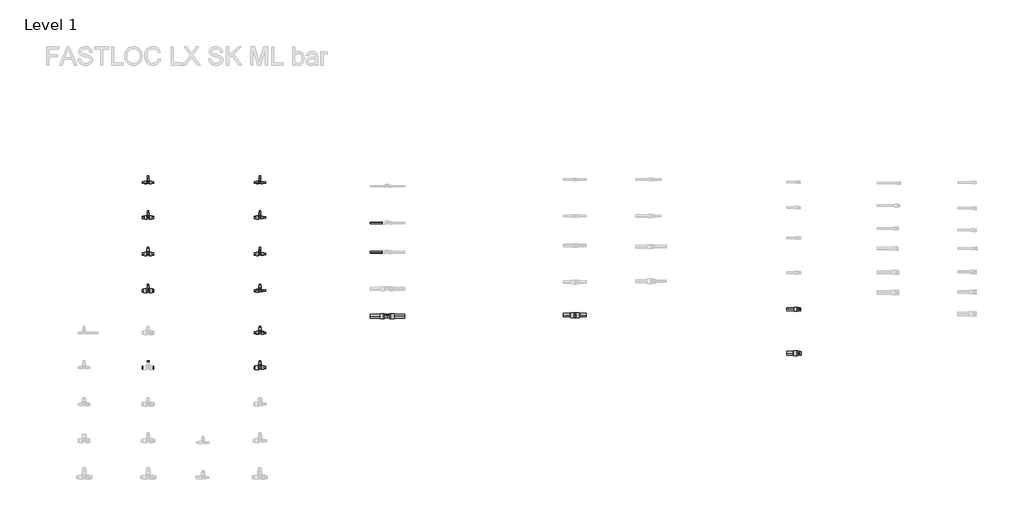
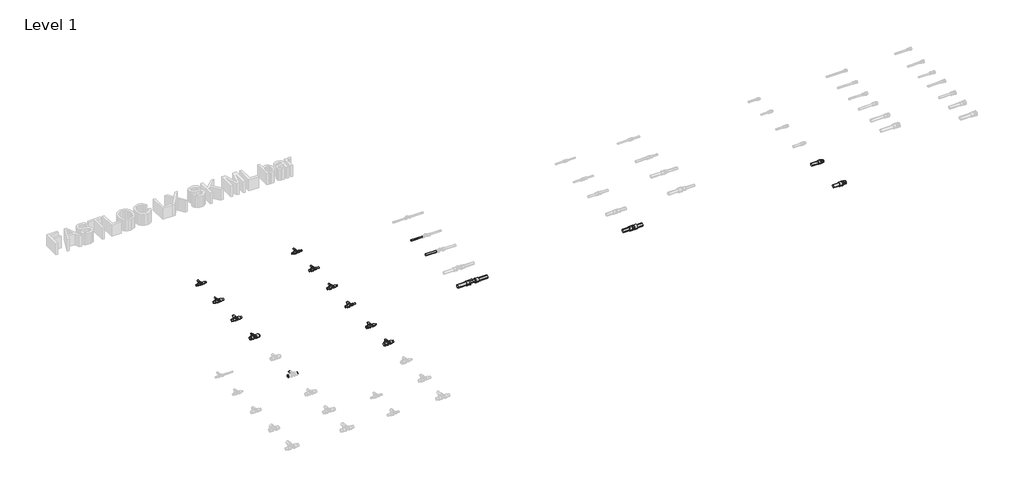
# One storey, part 13 of 78: 41 pipe segments, 14 pipe fittings.
"""IFC4 building model written with IfcOpenShell, lengths in millimetres."""

from ifc_helpers import new_model, si_unit, point, frame, frame_2d, origin, place, context, project, spatial, circle_curve, trimmed, segment, composite_curve, outline, extrude, transform, mapped, element, save
from components import pipe_fitting_5ae7c970, pipe_fitting_e97a97d3, pipe_fitting_d9a56b63, pipe_fitting_a094db19, pipe_fitting_5d5decb5, pipe_fitting_f2600fd0, pipe_fitting_8fb58d5f, pipe_fitting_db17a53a, pipe_fitting_3bea6388, pipe_fitting_e638986c, pipe_fitting_00caae07, pipe_fitting_607ccf76, pipe_fitting_b01d00d0, pipe_fitting_e8fea69e

model = new_model("IFC4")

# Units and contexts
model_context = context("Model", 3, world=origin())
ifc_project = project(units=[si_unit("LENGTHUNIT", "METRE", prefix="MILLI")], contexts=[model_context])

# Site, building, storey
site = spatial("IfcSite", under=ifc_project)
building = spatial("IfcBuilding", under=site)
storey = spatial("IfcBuildingStorey", under=building, Name="Level 1", Elevation=0.0)

# Pipe fittings
placement = place(None, origin())
pipe_fitting_shape = pipe_fitting_5ae7c970(model_context)
element("IfcPipeFitting", 1, ObjectType="FASTLOC_T-piece_LX : FSL T-Piece LX SK", at=placement, inside=storey, context=model_context, shape_type="MappedRepresentation", body=[
    mapped(pipe_fitting_shape, transform((426.7498072, -18740.2405791, 0.0), x_axis=(1.0, 0.0, 0.0), y_axis=(0.0, 1.0, 0.0), z_axis=(0.0, 0.0, 1.0))),
])
pipe_fitting_2_shape = pipe_fitting_e97a97d3(model_context)
element("IfcPipeFitting", 2, ObjectType="FASTLOC_T-piece_LX : FSL T-Piece LX SK", at=placement, inside=storey, context=model_context, shape_type="MappedRepresentation", body=[
    mapped(pipe_fitting_2_shape, transform((426.7498072, -19120.2405791, 0.0), x_axis=(1.0, 0.0, 0.0), y_axis=(0.0, 1.0, 0.0), z_axis=(0.0, 0.0, 1.0))),
])
pipe_fitting_3_shape = pipe_fitting_d9a56b63(model_context)
element("IfcPipeFitting", 3, ObjectType="FASTLOC_T-piece_LX : FSL T-Piece LX SK", at=placement, inside=storey, context=model_context, shape_type="MappedRepresentation", body=[
    mapped(pipe_fitting_3_shape, transform((426.7498072, -19520.2405791, 0.0), x_axis=(1.0, 0.0, 0.0), y_axis=(0.0, 1.0, 0.0), z_axis=(0.0, 0.0, 1.0))),
])
pipe_fitting_4_shape = pipe_fitting_a094db19(model_context)
element("IfcPipeFitting", 4, ObjectType="FASTLOC_T-piece_LX : FSL T-Piece LX SK", at=placement, inside=storey, context=model_context, shape_type="MappedRepresentation", body=[
    mapped(pipe_fitting_4_shape, transform((426.7498072, -19920.2405791, 0.0), x_axis=(1.0, 0.0, 0.0), y_axis=(0.0, 1.0, 0.0), z_axis=(0.0, 0.0, 1.0))),
])
pipe_fitting_5_shape = pipe_fitting_5d5decb5(model_context)
element("IfcPipeFitting", 5, ObjectType="FASTLOC_T-piece_LX : FSL T-Piece LX SK", at=placement, inside=storey, context=model_context, shape_type="MappedRepresentation", body=[
    mapped(pipe_fitting_5_shape, transform((1646.7498072, -20380.2405791, 0.0), x_axis=(1.0, 0.0, 0.0), y_axis=(0.0, 1.0, 0.0), z_axis=(0.0, 0.0, 1.0))),
])
pipe_fitting_6_shape = pipe_fitting_f2600fd0(model_context)
element("IfcPipeFitting", 6, ObjectType="FASTLOC_T-piece_LX : FSL T-Piece LX SK", at=placement, inside=storey, context=model_context, shape_type="MappedRepresentation", body=[
    mapped(pipe_fitting_6_shape, transform((1646.7498072, -20760.2405791, 0.0), x_axis=(1.0, 0.0, 0.0), y_axis=(0.0, 1.0, 0.0), z_axis=(0.0, 0.0, 1.0))),
])
pipe_fitting_7_shape = pipe_fitting_8fb58d5f(model_context)
element("IfcPipeFitting", 7, ObjectType="FASTLOC_T-piece_LX : FSL T-Piece LX SK", at=placement, inside=storey, context=model_context, shape_type="MappedRepresentation", body=[
    mapped(pipe_fitting_7_shape, transform((1646.7498072, -18740.2405791, 0.0), x_axis=(1.0, 0.0, 0.0), y_axis=(0.0, 1.0, 0.0), z_axis=(0.0, 0.0, 1.0))),
])
pipe_fitting_8_shape = pipe_fitting_db17a53a(model_context)
element("IfcPipeFitting", 8, ObjectType="FASTLOC_T-piece_LX : FSL T-Piece LX SK", at=placement, inside=storey, context=model_context, shape_type="MappedRepresentation", body=[
    mapped(pipe_fitting_8_shape, transform((1646.7498072, -19120.2405791, 0.0), x_axis=(1.0, 0.0, 0.0), y_axis=(0.0, 1.0, 0.0), z_axis=(0.0, 0.0, 1.0))),
])
pipe_fitting_9_shape = pipe_fitting_3bea6388(model_context)
element("IfcPipeFitting", 9, ObjectType="FASTLOC_T-piece_LX : FSL T-Piece LX SK", at=placement, inside=storey, context=model_context, shape_type="MappedRepresentation", body=[
    mapped(pipe_fitting_9_shape, transform((1646.7498072, -19520.2405791, 0.0), x_axis=(1.0, 0.0, 0.0), y_axis=(0.0, 1.0, 0.0), z_axis=(0.0, 0.0, 1.0))),
])
pipe_fitting_10_shape = pipe_fitting_e638986c(model_context)
element("IfcPipeFitting", 10, ObjectType="FASTLOC_T-piece_LX : FSL T-Piece LX SK", at=placement, inside=storey, context=model_context, shape_type="MappedRepresentation", body=[
    mapped(pipe_fitting_10_shape, transform((1646.7498072, -19920.2405791, 0.0), x_axis=(1.0, 0.0, 0.0), y_axis=(0.0, 1.0, 0.0), z_axis=(0.0, 0.0, 1.0))),
])
pipe_fitting_11_shape = pipe_fitting_00caae07(model_context)
element("IfcPipeFitting", 11, ObjectType="FASTLOC_T-piece internal thread LX : FSL T thread LX SK", at=placement, inside=storey, context=model_context, shape_type="MappedRepresentation", body=[
    mapped(pipe_fitting_11_shape, transform((3036.609585, -20199.8272875, 0.0), x_axis=(1.0, 0.0, 0.0), y_axis=(0.0, 1.0, 0.0), z_axis=(0.0, 0.0, 1.0))),
])
pipe_fitting_12_shape = pipe_fitting_607ccf76(model_context)
element("IfcPipeFitting", 12, ObjectType="FASTLOC_Coupling equal LX : FSL C LX SK", at=placement, inside=storey, context=model_context, shape_type="MappedRepresentation", body=[
    mapped(pipe_fitting_12_shape, transform((5088.3790161, -20187.4785925, 0.0), x_axis=(1.0, 0.0, 0.0), y_axis=(0.0, 1.0, 0.0), z_axis=(0.0, 0.0, 1.0))),
])
pipe_fitting_13_shape = pipe_fitting_b01d00d0(model_context)
element("IfcPipeFitting", 13, ObjectType="FASTLOC_Adapter_LX, with external thread : FSL A C external SK", at=placement, inside=storey, context=model_context, shape_type="MappedRepresentation", body=[
    mapped(pipe_fitting_13_shape, transform((7526.8953131, -20124.2068389, 0.0), x_axis=(1.0, 0.0, 0.0), y_axis=(0.0, 1.0, 0.0), z_axis=(0.0, 0.0, 1.0))),
])
pipe_fitting_14_shape = pipe_fitting_e8fea69e(model_context)
element("IfcPipeFitting", 14, ObjectType="FASTLOC_Adapter_LX, with external thread : FSL A C external SK", at=placement, inside=storey, context=model_context, shape_type="MappedRepresentation", body=[
    mapped(pipe_fitting_14_shape, transform((7526.8953131, -20604.2068389, 0.0), x_axis=(1.0, 0.0, 0.0), y_axis=(0.0, 1.0, 0.0), z_axis=(0.0, 0.0, 1.0))),
])

# Pipe segments
element("IfcPipeSegment", 15, ObjectType="FASTLOC LX ML SK bar", at=placement, inside=storey, context=model_context, shape_type="SweptSolid", body=[
    extrude(outline(composite_curve([segment(trimmed(circle_curve(frame_2d((-20760.2405791, 0.0)), 16.0), [point((-20776.2405791, 0.0))], [point((-20760.2405791, 16.0))], False, "CARTESIAN"), True, "CONTINUOUS"), segment(trimmed(circle_curve(frame_2d((-20760.2405791, 0.0)), 16.0), [point((-20760.2405791, 16.0))], [point((-20744.2405791, 0.0))], False, "CARTESIAN"), True, "CONTINUOUS"), segment(trimmed(circle_curve(frame_2d((-20760.2405791, 0.0)), 16.0), [point((-20744.2405791, 0.0))], [point((-20760.2405791, -16.0))], False, "CARTESIAN"), True, "CONTINUOUS"), segment(trimmed(circle_curve(frame_2d((-20760.2405791, 0.0)), 16.0), [point((-20760.2405791, -16.0))], [point((-20776.2405791, 0.0))], False, "CARTESIAN"), True, "CONTINUOUS")], self_intersect=False)), frame((448.7498072, 0.0, 0.0), z_axis=(1.0, 0.0, 0.0), x_axis=(0.0, 1.0, 0.0)), (0.0, 0.0, 1.0), 40.0),
])
element("IfcPipeSegment", 16, ObjectType="FASTLOC LX ML SK bar", at=placement, inside=storey, context=model_context, shape_type="SweptSolid", body=[
    extrude(outline(composite_curve([segment(trimmed(circle_curve(frame_2d((-20760.2405791, 0.0)), 16.0), [point((-20744.2405791, 0.0))], [point((-20760.2405791, -16.0))], False, "CARTESIAN"), True, "CONTINUOUS"), segment(trimmed(circle_curve(frame_2d((-20760.2405791, 0.0)), 16.0), [point((-20760.2405791, -16.0))], [point((-20776.2405791, 0.0))], False, "CARTESIAN"), True, "CONTINUOUS"), segment(trimmed(circle_curve(frame_2d((-20760.2405791, 0.0)), 16.0), [point((-20776.2405791, 0.0))], [point((-20760.2405791, 16.0))], False, "CARTESIAN"), True, "CONTINUOUS"), segment(trimmed(circle_curve(frame_2d((-20760.2405791, 0.0)), 16.0), [point((-20760.2405791, 16.0))], [point((-20744.2405791, 0.0))], False, "CARTESIAN"), True, "CONTINUOUS")], self_intersect=False)), frame((364.7498072, 0.0, 0.0), z_axis=(1.0, 0.0, 0.0), x_axis=(0.0, 1.0, 0.0)), (0.0, 0.0, 1.0), 40.0),
])
element("IfcPipeSegment", 17, ObjectType="FASTLOC LX ML SK bar", at=placement, inside=storey, context=model_context, shape_type="SweptSolid", body=[
    extrude(outline(composite_curve([segment(trimmed(circle_curve(frame_2d((0.0, 426.7498072)), 12.5), [point((0.0, 439.2498072))], [point((12.5, 426.7498072))], False, "CARTESIAN"), True, "CONTINUOUS"), segment(trimmed(circle_curve(frame_2d((0.0, 426.7498072)), 12.5), [point((12.5, 426.7498072))], [point((0.0, 414.2498072))], False, "CARTESIAN"), True, "CONTINUOUS"), segment(trimmed(circle_curve(frame_2d((0.0, 426.7498072)), 12.5), [point((0.0, 414.2498072))], [point((-12.5, 426.7498072))], False, "CARTESIAN"), True, "CONTINUOUS"), segment(trimmed(circle_curve(frame_2d((0.0, 426.7498072)), 12.5), [point((-12.5, 426.7498072))], [point((0.0, 439.2498072))], False, "CARTESIAN"), True, "CONTINUOUS")], self_intersect=False)), frame((0.0, -20725.8405791, 0.0), z_axis=(0.0, 1.0, 0.0), x_axis=(0.0, 0.0, 1.0)), (0.0, 0.0, 1.0), 37.9),
])
element("IfcPipeSegment", 18, ObjectType="FASTLOC LX ML SK bar", at=placement, inside=storey, context=model_context, shape_type="SweptSolid", body=[
    extrude(outline(composite_curve([segment(trimmed(circle_curve(frame_2d((-18740.2405791, 0.0)), 8.0), [point((-18748.2405791, 0.0))], [point((-18740.2405791, 8.0))], False, "CARTESIAN"), True, "CONTINUOUS"), segment(trimmed(circle_curve(frame_2d((-18740.2405791, 0.0)), 8.0), [point((-18740.2405791, 8.0))], [point((-18732.2405791, 0.0))], False, "CARTESIAN"), True, "CONTINUOUS"), segment(trimmed(circle_curve(frame_2d((-18740.2405791, 0.0)), 8.0), [point((-18732.2405791, 0.0))], [point((-18740.2405791, -8.0))], False, "CARTESIAN"), True, "CONTINUOUS"), segment(trimmed(circle_curve(frame_2d((-18740.2405791, 0.0)), 8.0), [point((-18740.2405791, -8.0))], [point((-18748.2405791, 0.0))], False, "CARTESIAN"), True, "CONTINUOUS")], self_intersect=False)), frame((442.0498072, 0.0, 0.0), z_axis=(1.0, 0.0, 0.0), x_axis=(0.0, 1.0, 0.0)), (0.0, 0.0, 1.0), 46.7),
])
element("IfcPipeSegment", 19, ObjectType="FASTLOC LX ML SK bar", at=placement, inside=storey, context=model_context, shape_type="SweptSolid", body=[
    extrude(outline(composite_curve([segment(trimmed(circle_curve(frame_2d((-18740.2405791, 0.0)), 8.0), [point((-18732.2405791, 0.0))], [point((-18740.2405791, -8.0))], False, "CARTESIAN"), True, "CONTINUOUS"), segment(trimmed(circle_curve(frame_2d((-18740.2405791, 0.0)), 8.0), [point((-18740.2405791, -8.0))], [point((-18748.2405791, 0.0))], False, "CARTESIAN"), True, "CONTINUOUS"), segment(trimmed(circle_curve(frame_2d((-18740.2405791, 0.0)), 8.0), [point((-18748.2405791, 0.0))], [point((-18740.2405791, 8.0))], False, "CARTESIAN"), True, "CONTINUOUS"), segment(trimmed(circle_curve(frame_2d((-18740.2405791, 0.0)), 8.0), [point((-18740.2405791, 8.0))], [point((-18732.2405791, 0.0))], False, "CARTESIAN"), True, "CONTINUOUS")], self_intersect=False)), frame((364.7498072, 0.0, 0.0), z_axis=(1.0, 0.0, 0.0), x_axis=(0.0, 1.0, 0.0)), (0.0, 0.0, 1.0), 46.7),
])
element("IfcPipeSegment", 20, ObjectType="FASTLOC LX ML SK bar", at=placement, inside=storey, context=model_context, shape_type="SweptSolid", body=[
    extrude(outline(composite_curve([segment(trimmed(circle_curve(frame_2d((0.0, 426.7498072)), 8.0), [point((0.0, 434.7498072))], [point((8.0, 426.7498072))], False, "CARTESIAN"), True, "CONTINUOUS"), segment(trimmed(circle_curve(frame_2d((0.0, 426.7498072)), 8.0), [point((8.0, 426.7498072))], [point((0.0, 418.7498072))], False, "CARTESIAN"), True, "CONTINUOUS"), segment(trimmed(circle_curve(frame_2d((0.0, 426.7498072)), 8.0), [point((0.0, 418.7498072))], [point((-8.0, 426.7498072))], False, "CARTESIAN"), True, "CONTINUOUS"), segment(trimmed(circle_curve(frame_2d((0.0, 426.7498072)), 8.0), [point((-8.0, 426.7498072))], [point((0.0, 434.7498072))], False, "CARTESIAN"), True, "CONTINUOUS")], self_intersect=False)), frame((0.0, -18713.9405791, 0.0), z_axis=(0.0, 1.0, 0.0), x_axis=(0.0, 0.0, 1.0)), (0.0, 0.0, 1.0), 46.0),
])
element("IfcPipeSegment", 21, ObjectType="FASTLOC LX ML SK bar", at=placement, inside=storey, context=model_context, shape_type="SweptSolid", body=[
    extrude(outline(composite_curve([segment(trimmed(circle_curve(frame_2d((-19120.2405791, 0.0)), 12.5), [point((-19132.7405791, 0.0))], [point((-19120.2405791, 12.5))], False, "CARTESIAN"), True, "CONTINUOUS"), segment(trimmed(circle_curve(frame_2d((-19120.2405791, 0.0)), 12.5), [point((-19120.2405791, 12.5))], [point((-19107.7405791, 0.0))], False, "CARTESIAN"), True, "CONTINUOUS"), segment(trimmed(circle_curve(frame_2d((-19120.2405791, 0.0)), 12.5), [point((-19107.7405791, 0.0))], [point((-19120.2405791, -12.5))], False, "CARTESIAN"), True, "CONTINUOUS"), segment(trimmed(circle_curve(frame_2d((-19120.2405791, 0.0)), 12.5), [point((-19120.2405791, -12.5))], [point((-19132.7405791, 0.0))], False, "CARTESIAN"), True, "CONTINUOUS")], self_intersect=False)), frame((442.9498072, 0.0, 0.0), z_axis=(1.0, 0.0, 0.0), x_axis=(0.0, 1.0, 0.0)), (0.0, 0.0, 1.0), 45.8),
])
element("IfcPipeSegment", 22, ObjectType="FASTLOC LX ML SK bar", at=placement, inside=storey, context=model_context, shape_type="SweptSolid", body=[
    extrude(outline(composite_curve([segment(trimmed(circle_curve(frame_2d((-19120.2405791, 0.0)), 12.5), [point((-19107.7405791, 0.0))], [point((-19120.2405791, -12.5))], False, "CARTESIAN"), True, "CONTINUOUS"), segment(trimmed(circle_curve(frame_2d((-19120.2405791, 0.0)), 12.5), [point((-19120.2405791, -12.5))], [point((-19132.7405791, 0.0))], False, "CARTESIAN"), True, "CONTINUOUS"), segment(trimmed(circle_curve(frame_2d((-19120.2405791, 0.0)), 12.5), [point((-19132.7405791, 0.0))], [point((-19120.2405791, 12.5))], False, "CARTESIAN"), True, "CONTINUOUS"), segment(trimmed(circle_curve(frame_2d((-19120.2405791, 0.0)), 12.5), [point((-19120.2405791, 12.5))], [point((-19107.7405791, 0.0))], False, "CARTESIAN"), True, "CONTINUOUS")], self_intersect=False)), frame((364.7498072, 0.0, 0.0), z_axis=(1.0, 0.0, 0.0), x_axis=(0.0, 1.0, 0.0)), (0.0, 0.0, 1.0), 45.8),
])
element("IfcPipeSegment", 23, ObjectType="FASTLOC LX ML SK bar", at=placement, inside=storey, context=model_context, shape_type="SweptSolid", body=[
    extrude(outline(composite_curve([segment(trimmed(circle_curve(frame_2d((0.0, 426.7498072)), 8.0), [point((0.0, 434.7498072))], [point((8.0, 426.7498072))], False, "CARTESIAN"), True, "CONTINUOUS"), segment(trimmed(circle_curve(frame_2d((0.0, 426.7498072)), 8.0), [point((8.0, 426.7498072))], [point((0.0, 418.7498072))], False, "CARTESIAN"), True, "CONTINUOUS"), segment(trimmed(circle_curve(frame_2d((0.0, 426.7498072)), 8.0), [point((0.0, 418.7498072))], [point((-8.0, 426.7498072))], False, "CARTESIAN"), True, "CONTINUOUS"), segment(trimmed(circle_curve(frame_2d((0.0, 426.7498072)), 8.0), [point((-8.0, 426.7498072))], [point((0.0, 434.7498072))], False, "CARTESIAN"), True, "CONTINUOUS")], self_intersect=False)), frame((0.0, -19091.2405791, 0.0), z_axis=(0.0, 1.0, 0.0), x_axis=(0.0, 0.0, 1.0)), (0.0, 0.0, 1.0), 43.3),
])
element("IfcPipeSegment", 24, ObjectType="FASTLOC LX ML SK bar", at=placement, inside=storey, context=model_context, shape_type="SweptSolid", body=[
    extrude(outline(composite_curve([segment(trimmed(circle_curve(frame_2d((-19520.2405791, 0.0)), 12.5), [point((-19532.7405791, 0.0))], [point((-19520.2405791, 12.5))], False, "CARTESIAN"), True, "CONTINUOUS"), segment(trimmed(circle_curve(frame_2d((-19520.2405791, 0.0)), 12.5), [point((-19520.2405791, 12.5))], [point((-19507.7405791, 0.0))], False, "CARTESIAN"), True, "CONTINUOUS"), segment(trimmed(circle_curve(frame_2d((-19520.2405791, 0.0)), 12.5), [point((-19507.7405791, 0.0))], [point((-19520.2405791, -12.5))], False, "CARTESIAN"), True, "CONTINUOUS"), segment(trimmed(circle_curve(frame_2d((-19520.2405791, 0.0)), 12.5), [point((-19520.2405791, -12.5))], [point((-19532.7405791, 0.0))], False, "CARTESIAN"), True, "CONTINUOUS")], self_intersect=False)), frame((444.8498072, 0.0, 0.0), z_axis=(1.0, 0.0, 0.0), x_axis=(0.0, 1.0, 0.0)), (0.0, 0.0, 1.0), 43.9),
])
element("IfcPipeSegment", 25, ObjectType="FASTLOC LX ML SK bar", at=placement, inside=storey, context=model_context, shape_type="SweptSolid", body=[
    extrude(outline(composite_curve([segment(trimmed(circle_curve(frame_2d((-19520.2405791, 0.0)), 12.5), [point((-19507.7405791, 0.0))], [point((-19520.2405791, -12.5))], False, "CARTESIAN"), True, "CONTINUOUS"), segment(trimmed(circle_curve(frame_2d((-19520.2405791, 0.0)), 12.5), [point((-19520.2405791, -12.5))], [point((-19532.7405791, 0.0))], False, "CARTESIAN"), True, "CONTINUOUS"), segment(trimmed(circle_curve(frame_2d((-19520.2405791, 0.0)), 12.5), [point((-19532.7405791, 0.0))], [point((-19520.2405791, 12.5))], False, "CARTESIAN"), True, "CONTINUOUS"), segment(trimmed(circle_curve(frame_2d((-19520.2405791, 0.0)), 12.5), [point((-19520.2405791, 12.5))], [point((-19507.7405791, 0.0))], False, "CARTESIAN"), True, "CONTINUOUS")], self_intersect=False)), frame((364.7498072, 0.0, 0.0), z_axis=(1.0, 0.0, 0.0), x_axis=(0.0, 1.0, 0.0)), (0.0, 0.0, 1.0), 43.9),
])
element("IfcPipeSegment", 26, ObjectType="FASTLOC LX ML SK bar", at=placement, inside=storey, context=model_context, shape_type="SweptSolid", body=[
    extrude(outline(composite_curve([segment(trimmed(circle_curve(frame_2d((0.0, 426.7498072)), 8.0), [point((0.0, 434.7498072))], [point((8.0, 426.7498072))], False, "CARTESIAN"), True, "CONTINUOUS"), segment(trimmed(circle_curve(frame_2d((0.0, 426.7498072)), 8.0), [point((8.0, 426.7498072))], [point((0.0, 418.7498072))], False, "CARTESIAN"), True, "CONTINUOUS"), segment(trimmed(circle_curve(frame_2d((0.0, 426.7498072)), 8.0), [point((0.0, 418.7498072))], [point((-8.0, 426.7498072))], False, "CARTESIAN"), True, "CONTINUOUS"), segment(trimmed(circle_curve(frame_2d((0.0, 426.7498072)), 8.0), [point((-8.0, 426.7498072))], [point((0.0, 434.7498072))], False, "CARTESIAN"), True, "CONTINUOUS")], self_intersect=False)), frame((0.0, -19491.0405791, 0.0), z_axis=(0.0, 1.0, 0.0), x_axis=(0.0, 0.0, 1.0)), (0.0, 0.0, 1.0), 43.1),
])
element("IfcPipeSegment", 27, ObjectType="FASTLOC LX ML SK bar", at=placement, inside=storey, context=model_context, shape_type="SweptSolid", body=[
    extrude(outline(composite_curve([segment(trimmed(circle_curve(frame_2d((-19920.2405791, 0.0)), 16.0), [point((-19936.2405791, 0.0))], [point((-19920.2405791, 16.0))], False, "CARTESIAN"), True, "CONTINUOUS"), segment(trimmed(circle_curve(frame_2d((-19920.2405791, 0.0)), 16.0), [point((-19920.2405791, 16.0))], [point((-19904.2405791, 0.0))], False, "CARTESIAN"), True, "CONTINUOUS"), segment(trimmed(circle_curve(frame_2d((-19920.2405791, 0.0)), 16.0), [point((-19904.2405791, 0.0))], [point((-19920.2405791, -16.0))], False, "CARTESIAN"), True, "CONTINUOUS"), segment(trimmed(circle_curve(frame_2d((-19920.2405791, 0.0)), 16.0), [point((-19920.2405791, -16.0))], [point((-19936.2405791, 0.0))], False, "CARTESIAN"), True, "CONTINUOUS")], self_intersect=False)), frame((445.0498072, 0.0, 0.0), z_axis=(1.0, 0.0, 0.0), x_axis=(0.0, 1.0, 0.0)), (0.0, 0.0, 1.0), 43.7),
])
element("IfcPipeSegment", 28, ObjectType="FASTLOC LX ML SK bar", at=placement, inside=storey, context=model_context, shape_type="SweptSolid", body=[
    extrude(outline(composite_curve([segment(trimmed(circle_curve(frame_2d((-19920.2405791, 0.0)), 16.0), [point((-19904.2405791, 0.0))], [point((-19920.2405791, -16.0))], False, "CARTESIAN"), True, "CONTINUOUS"), segment(trimmed(circle_curve(frame_2d((-19920.2405791, 0.0)), 16.0), [point((-19920.2405791, -16.0))], [point((-19936.2405791, 0.0))], False, "CARTESIAN"), True, "CONTINUOUS"), segment(trimmed(circle_curve(frame_2d((-19920.2405791, 0.0)), 16.0), [point((-19936.2405791, 0.0))], [point((-19920.2405791, 16.0))], False, "CARTESIAN"), True, "CONTINUOUS"), segment(trimmed(circle_curve(frame_2d((-19920.2405791, 0.0)), 16.0), [point((-19920.2405791, 16.0))], [point((-19904.2405791, 0.0))], False, "CARTESIAN"), True, "CONTINUOUS")], self_intersect=False)), frame((364.7498072, 0.0, 0.0), z_axis=(1.0, 0.0, 0.0), x_axis=(0.0, 1.0, 0.0)), (0.0, 0.0, 1.0), 43.7),
])
element("IfcPipeSegment", 29, ObjectType="FASTLOC LX ML SK bar", at=placement, inside=storey, context=model_context, shape_type="SweptSolid", body=[
    extrude(outline(composite_curve([segment(trimmed(circle_curve(frame_2d((0.0, 426.7498072)), 8.0), [point((0.0, 434.7498072))], [point((8.0, 426.7498072))], False, "CARTESIAN"), True, "CONTINUOUS"), segment(trimmed(circle_curve(frame_2d((0.0, 426.7498072)), 8.0), [point((8.0, 426.7498072))], [point((0.0, 418.7498072))], False, "CARTESIAN"), True, "CONTINUOUS"), segment(trimmed(circle_curve(frame_2d((0.0, 426.7498072)), 8.0), [point((0.0, 418.7498072))], [point((-8.0, 426.7498072))], False, "CARTESIAN"), True, "CONTINUOUS"), segment(trimmed(circle_curve(frame_2d((0.0, 426.7498072)), 8.0), [point((-8.0, 426.7498072))], [point((0.0, 434.7498072))], False, "CARTESIAN"), True, "CONTINUOUS")], self_intersect=False)), frame((0.0, -19886.3405791, 0.0), z_axis=(0.0, 1.0, 0.0), x_axis=(0.0, 0.0, 1.0)), (0.0, 0.0, 1.0), 38.4),
])
element("IfcPipeSegment", 30, ObjectType="FASTLOC LX ML SK bar", at=placement, inside=storey, context=model_context, shape_type="SweptSolid", body=[
    extrude(outline(composite_curve([segment(trimmed(circle_curve(frame_2d((-20380.2405791, 0.0)), 8.0), [point((-20388.2405791, 0.0))], [point((-20380.2405791, 8.0))], False, "CARTESIAN"), True, "CONTINUOUS"), segment(trimmed(circle_curve(frame_2d((-20380.2405791, 0.0)), 8.0), [point((-20380.2405791, 8.0))], [point((-20372.2405791, 0.0))], False, "CARTESIAN"), True, "CONTINUOUS"), segment(trimmed(circle_curve(frame_2d((-20380.2405791, 0.0)), 8.0), [point((-20372.2405791, 0.0))], [point((-20380.2405791, -8.0))], False, "CARTESIAN"), True, "CONTINUOUS"), segment(trimmed(circle_curve(frame_2d((-20380.2405791, 0.0)), 8.0), [point((-20380.2405791, -8.0))], [point((-20388.2405791, 0.0))], False, "CARTESIAN"), True, "CONTINUOUS")], self_intersect=False)), frame((1664.1498072, 0.0, 0.0), z_axis=(1.0, 0.0, 0.0), x_axis=(0.0, 1.0, 0.0)), (0.0, 0.0, 1.0), 44.6),
])
element("IfcPipeSegment", 31, ObjectType="FASTLOC LX ML SK bar", at=placement, inside=storey, context=model_context, shape_type="SweptSolid", body=[
    extrude(outline(composite_curve([segment(trimmed(circle_curve(frame_2d((-20380.2405791, 0.0)), 12.5), [point((-20367.7405791, 0.0))], [point((-20380.2405791, -12.5))], False, "CARTESIAN"), True, "CONTINUOUS"), segment(trimmed(circle_curve(frame_2d((-20380.2405791, 0.0)), 12.5), [point((-20380.2405791, -12.5))], [point((-20392.7405791, 0.0))], False, "CARTESIAN"), True, "CONTINUOUS"), segment(trimmed(circle_curve(frame_2d((-20380.2405791, 0.0)), 12.5), [point((-20392.7405791, 0.0))], [point((-20380.2405791, 12.5))], False, "CARTESIAN"), True, "CONTINUOUS"), segment(trimmed(circle_curve(frame_2d((-20380.2405791, 0.0)), 12.5), [point((-20380.2405791, 12.5))], [point((-20367.7405791, 0.0))], False, "CARTESIAN"), True, "CONTINUOUS")], self_intersect=False)), frame((1584.7498072, 0.0, 0.0), z_axis=(1.0, 0.0, 0.0), x_axis=(0.0, 1.0, 0.0)), (0.0, 0.0, 1.0), 43.7),
])
element("IfcPipeSegment", 32, ObjectType="FASTLOC LX ML SK bar", at=placement, inside=storey, context=model_context, shape_type="SweptSolid", body=[
    extrude(outline(composite_curve([segment(trimmed(circle_curve(frame_2d((0.0, 1646.7498072)), 8.0), [point((0.0, 1654.7498072))], [point((8.0, 1646.7498072))], False, "CARTESIAN"), True, "CONTINUOUS"), segment(trimmed(circle_curve(frame_2d((0.0, 1646.7498072)), 8.0), [point((8.0, 1646.7498072))], [point((0.0, 1638.7498072))], False, "CARTESIAN"), True, "CONTINUOUS"), segment(trimmed(circle_curve(frame_2d((0.0, 1646.7498072)), 8.0), [point((0.0, 1638.7498072))], [point((-8.0, 1646.7498072))], False, "CARTESIAN"), True, "CONTINUOUS"), segment(trimmed(circle_curve(frame_2d((0.0, 1646.7498072)), 8.0), [point((-8.0, 1646.7498072))], [point((0.0, 1654.7498072))], False, "CARTESIAN"), True, "CONTINUOUS")], self_intersect=False)), frame((0.0, -20351.0405791, 0.0), z_axis=(0.0, 1.0, 0.0), x_axis=(0.0, 0.0, 1.0)), (0.0, 0.0, 1.0), 43.1),
])
element("IfcPipeSegment", 33, ObjectType="FASTLOC LX ML SK bar", at=placement, inside=storey, context=model_context, shape_type="SweptSolid", body=[
    extrude(outline(composite_curve([segment(trimmed(circle_curve(frame_2d((-20760.2405791, 0.0)), 12.5), [point((-20772.7405791, 0.0))], [point((-20760.2405791, 12.5))], False, "CARTESIAN"), True, "CONTINUOUS"), segment(trimmed(circle_curve(frame_2d((-20760.2405791, 0.0)), 12.5), [point((-20760.2405791, 12.5))], [point((-20747.7405791, 0.0))], False, "CARTESIAN"), True, "CONTINUOUS"), segment(trimmed(circle_curve(frame_2d((-20760.2405791, 0.0)), 12.5), [point((-20747.7405791, 0.0))], [point((-20760.2405791, -12.5))], False, "CARTESIAN"), True, "CONTINUOUS"), segment(trimmed(circle_curve(frame_2d((-20760.2405791, 0.0)), 12.5), [point((-20760.2405791, -12.5))], [point((-20772.7405791, 0.0))], False, "CARTESIAN"), True, "CONTINUOUS")], self_intersect=False)), frame((1665.0498072, 0.0, 0.0), z_axis=(1.0, 0.0, 0.0), x_axis=(0.0, 1.0, 0.0)), (0.0, 0.0, 1.0), 43.7),
])
element("IfcPipeSegment", 34, ObjectType="FASTLOC LX ML SK bar", at=placement, inside=storey, context=model_context, shape_type="SweptSolid", body=[
    extrude(outline(composite_curve([segment(trimmed(circle_curve(frame_2d((-20760.2405791, 0.0)), 16.0), [point((-20744.2405791, 0.0))], [point((-20760.2405791, -16.0))], False, "CARTESIAN"), True, "CONTINUOUS"), segment(trimmed(circle_curve(frame_2d((-20760.2405791, 0.0)), 16.0), [point((-20760.2405791, -16.0))], [point((-20776.2405791, 0.0))], False, "CARTESIAN"), True, "CONTINUOUS"), segment(trimmed(circle_curve(frame_2d((-20760.2405791, 0.0)), 16.0), [point((-20776.2405791, 0.0))], [point((-20760.2405791, 16.0))], False, "CARTESIAN"), True, "CONTINUOUS"), segment(trimmed(circle_curve(frame_2d((-20760.2405791, 0.0)), 16.0), [point((-20760.2405791, 16.0))], [point((-20744.2405791, 0.0))], False, "CARTESIAN"), True, "CONTINUOUS")], self_intersect=False)), frame((1584.7498072, 0.0, 0.0), z_axis=(1.0, 0.0, 0.0), x_axis=(0.0, 1.0, 0.0)), (0.0, 0.0, 1.0), 41.7),
])
element("IfcPipeSegment", 35, ObjectType="FASTLOC LX ML SK bar", at=placement, inside=storey, context=model_context, shape_type="SweptSolid", body=[
    extrude(outline(composite_curve([segment(trimmed(circle_curve(frame_2d((0.0, 1646.7498072)), 8.0), [point((0.0, 1654.7498072))], [point((8.0, 1646.7498072))], False, "CARTESIAN"), True, "CONTINUOUS"), segment(trimmed(circle_curve(frame_2d((0.0, 1646.7498072)), 8.0), [point((8.0, 1646.7498072))], [point((0.0, 1638.7498072))], False, "CARTESIAN"), True, "CONTINUOUS"), segment(trimmed(circle_curve(frame_2d((0.0, 1646.7498072)), 8.0), [point((0.0, 1638.7498072))], [point((-8.0, 1646.7498072))], False, "CARTESIAN"), True, "CONTINUOUS"), segment(trimmed(circle_curve(frame_2d((0.0, 1646.7498072)), 8.0), [point((-8.0, 1646.7498072))], [point((0.0, 1654.7498072))], False, "CARTESIAN"), True, "CONTINUOUS")], self_intersect=False)), frame((0.0, -20726.2405791, 0.0), z_axis=(0.0, 1.0, 0.0), x_axis=(0.0, 0.0, 1.0)), (0.0, 0.0, 1.0), 38.3),
])
element("IfcPipeSegment", 36, ObjectType="FASTLOC LX ML SK bar", at=placement, inside=storey, context=model_context, shape_type="SweptSolid", body=[
    extrude(outline(composite_curve([segment(trimmed(circle_curve(frame_2d((-18740.2405791, 0.0)), 8.0), [point((-18748.2405791, 0.0))], [point((-18740.2405791, 8.0))], False, "CARTESIAN"), True, "CONTINUOUS"), segment(trimmed(circle_curve(frame_2d((-18740.2405791, 0.0)), 8.0), [point((-18740.2405791, 8.0))], [point((-18732.2405791, 0.0))], False, "CARTESIAN"), True, "CONTINUOUS"), segment(trimmed(circle_curve(frame_2d((-18740.2405791, 0.0)), 8.0), [point((-18732.2405791, 0.0))], [point((-18740.2405791, -8.0))], False, "CARTESIAN"), True, "CONTINUOUS"), segment(trimmed(circle_curve(frame_2d((-18740.2405791, 0.0)), 8.0), [point((-18740.2405791, -8.0))], [point((-18748.2405791, 0.0))], False, "CARTESIAN"), True, "CONTINUOUS")], self_intersect=False)), frame((1661.8498072, 0.0, 0.0), z_axis=(1.0, 0.0, 0.0), x_axis=(0.0, 1.0, 0.0)), (0.0, 0.0, 1.0), 46.9),
])
element("IfcPipeSegment", 37, ObjectType="FASTLOC LX ML SK bar", at=placement, inside=storey, context=model_context, shape_type="SweptSolid", body=[
    extrude(outline(composite_curve([segment(trimmed(circle_curve(frame_2d((-18740.2405791, 0.0)), 8.0), [point((-18732.2405791, 0.0))], [point((-18740.2405791, -8.0))], False, "CARTESIAN"), True, "CONTINUOUS"), segment(trimmed(circle_curve(frame_2d((-18740.2405791, 0.0)), 8.0), [point((-18740.2405791, -8.0))], [point((-18748.2405791, 0.0))], False, "CARTESIAN"), True, "CONTINUOUS"), segment(trimmed(circle_curve(frame_2d((-18740.2405791, 0.0)), 8.0), [point((-18748.2405791, 0.0))], [point((-18740.2405791, 8.0))], False, "CARTESIAN"), True, "CONTINUOUS"), segment(trimmed(circle_curve(frame_2d((-18740.2405791, 0.0)), 8.0), [point((-18740.2405791, 8.0))], [point((-18732.2405791, 0.0))], False, "CARTESIAN"), True, "CONTINUOUS")], self_intersect=False)), frame((1584.7498072, 0.0, 0.0), z_axis=(1.0, 0.0, 0.0), x_axis=(0.0, 1.0, 0.0)), (0.0, 0.0, 1.0), 46.5),
])
element("IfcPipeSegment", 38, ObjectType="FASTLOC LX ML SK bar", at=placement, inside=storey, context=model_context, shape_type="SweptSolid", body=[
    extrude(outline(composite_curve([segment(trimmed(circle_curve(frame_2d((0.0, 1646.7498072)), 8.0), [point((0.0, 1654.7498072))], [point((8.0, 1646.7498072))], False, "CARTESIAN"), True, "CONTINUOUS"), segment(trimmed(circle_curve(frame_2d((0.0, 1646.7498072)), 8.0), [point((8.0, 1646.7498072))], [point((0.0, 1638.7498072))], False, "CARTESIAN"), True, "CONTINUOUS"), segment(trimmed(circle_curve(frame_2d((0.0, 1646.7498072)), 8.0), [point((0.0, 1638.7498072))], [point((-8.0, 1646.7498072))], False, "CARTESIAN"), True, "CONTINUOUS"), segment(trimmed(circle_curve(frame_2d((0.0, 1646.7498072)), 8.0), [point((-8.0, 1646.7498072))], [point((0.0, 1654.7498072))], False, "CARTESIAN"), True, "CONTINUOUS")], self_intersect=False)), frame((0.0, -18713.8405791, 0.0), z_axis=(0.0, 1.0, 0.0), x_axis=(0.0, 0.0, 1.0)), (0.0, 0.0, 1.0), 45.9),
])
element("IfcPipeSegment", 39, ObjectType="FASTLOC LX ML SK bar", at=placement, inside=storey, context=model_context, shape_type="SweptSolid", body=[
    extrude(outline(composite_curve([segment(trimmed(circle_curve(frame_2d((-19120.2405791, 0.0)), 8.0), [point((-19128.2405791, 0.0))], [point((-19120.2405791, 8.0))], False, "CARTESIAN"), True, "CONTINUOUS"), segment(trimmed(circle_curve(frame_2d((-19120.2405791, 0.0)), 8.0), [point((-19120.2405791, 8.0))], [point((-19112.2405791, 0.0))], False, "CARTESIAN"), True, "CONTINUOUS"), segment(trimmed(circle_curve(frame_2d((-19120.2405791, 0.0)), 8.0), [point((-19112.2405791, 0.0))], [point((-19120.2405791, -8.0))], False, "CARTESIAN"), True, "CONTINUOUS"), segment(trimmed(circle_curve(frame_2d((-19120.2405791, 0.0)), 8.0), [point((-19120.2405791, -8.0))], [point((-19128.2405791, 0.0))], False, "CARTESIAN"), True, "CONTINUOUS")], self_intersect=False)), frame((1661.8498072, 0.0, 0.0), z_axis=(1.0, 0.0, 0.0), x_axis=(0.0, 1.0, 0.0)), (0.0, 0.0, 1.0), 46.9),
])
element("IfcPipeSegment", 40, ObjectType="FASTLOC LX ML SK bar", at=placement, inside=storey, context=model_context, shape_type="SweptSolid", body=[
    extrude(outline(composite_curve([segment(trimmed(circle_curve(frame_2d((-19120.2405791, 0.0)), 12.5), [point((-19107.7405791, 0.0))], [point((-19120.2405791, -12.5))], False, "CARTESIAN"), True, "CONTINUOUS"), segment(trimmed(circle_curve(frame_2d((-19120.2405791, 0.0)), 12.5), [point((-19120.2405791, -12.5))], [point((-19132.7405791, 0.0))], False, "CARTESIAN"), True, "CONTINUOUS"), segment(trimmed(circle_curve(frame_2d((-19120.2405791, 0.0)), 12.5), [point((-19132.7405791, 0.0))], [point((-19120.2405791, 12.5))], False, "CARTESIAN"), True, "CONTINUOUS"), segment(trimmed(circle_curve(frame_2d((-19120.2405791, 0.0)), 12.5), [point((-19120.2405791, 12.5))], [point((-19107.7405791, 0.0))], False, "CARTESIAN"), True, "CONTINUOUS")], self_intersect=False)), frame((1584.7498072, 0.0, 0.0), z_axis=(1.0, 0.0, 0.0), x_axis=(0.0, 1.0, 0.0)), (0.0, 0.0, 1.0), 45.6),
])
element("IfcPipeSegment", 41, ObjectType="FASTLOC LX ML SK bar", at=placement, inside=storey, context=model_context, shape_type="SweptSolid", body=[
    extrude(outline(composite_curve([segment(trimmed(circle_curve(frame_2d((0.0, 1646.7498072)), 8.0), [point((0.0, 1654.7498072))], [point((8.0, 1646.7498072))], False, "CARTESIAN"), True, "CONTINUOUS"), segment(trimmed(circle_curve(frame_2d((0.0, 1646.7498072)), 8.0), [point((8.0, 1646.7498072))], [point((0.0, 1638.7498072))], False, "CARTESIAN"), True, "CONTINUOUS"), segment(trimmed(circle_curve(frame_2d((0.0, 1646.7498072)), 8.0), [point((0.0, 1638.7498072))], [point((-8.0, 1646.7498072))], False, "CARTESIAN"), True, "CONTINUOUS"), segment(trimmed(circle_curve(frame_2d((0.0, 1646.7498072)), 8.0), [point((-8.0, 1646.7498072))], [point((0.0, 1654.7498072))], False, "CARTESIAN"), True, "CONTINUOUS")], self_intersect=False)), frame((0.0, -19091.1405791, 0.0), z_axis=(0.0, 1.0, 0.0), x_axis=(0.0, 0.0, 1.0)), (0.0, 0.0, 1.0), 43.2),
])
element("IfcPipeSegment", 42, ObjectType="FASTLOC LX ML SK bar", at=placement, inside=storey, context=model_context, shape_type="SweptSolid", body=[
    extrude(outline(composite_curve([segment(trimmed(circle_curve(frame_2d((-19520.2405791, 0.0)), 8.0), [point((-19528.2405791, 0.0))], [point((-19520.2405791, 8.0))], False, "CARTESIAN"), True, "CONTINUOUS"), segment(trimmed(circle_curve(frame_2d((-19520.2405791, 0.0)), 8.0), [point((-19520.2405791, 8.0))], [point((-19512.2405791, 0.0))], False, "CARTESIAN"), True, "CONTINUOUS"), segment(trimmed(circle_curve(frame_2d((-19520.2405791, 0.0)), 8.0), [point((-19512.2405791, 0.0))], [point((-19520.2405791, -8.0))], False, "CARTESIAN"), True, "CONTINUOUS"), segment(trimmed(circle_curve(frame_2d((-19520.2405791, 0.0)), 8.0), [point((-19520.2405791, -8.0))], [point((-19528.2405791, 0.0))], False, "CARTESIAN"), True, "CONTINUOUS")], self_intersect=False)), frame((1662.2498072, 0.0, 0.0), z_axis=(1.0, 0.0, 0.0), x_axis=(0.0, 1.0, 0.0)), (0.0, 0.0, 1.0), 46.5),
])
element("IfcPipeSegment", 43, ObjectType="FASTLOC LX ML SK bar", at=placement, inside=storey, context=model_context, shape_type="SweptSolid", body=[
    extrude(outline(composite_curve([segment(trimmed(circle_curve(frame_2d((-19520.2405791, 0.0)), 12.5), [point((-19507.7405791, 0.0))], [point((-19520.2405791, -12.5))], False, "CARTESIAN"), True, "CONTINUOUS"), segment(trimmed(circle_curve(frame_2d((-19520.2405791, 0.0)), 12.5), [point((-19520.2405791, -12.5))], [point((-19532.7405791, 0.0))], False, "CARTESIAN"), True, "CONTINUOUS"), segment(trimmed(circle_curve(frame_2d((-19520.2405791, 0.0)), 12.5), [point((-19532.7405791, 0.0))], [point((-19520.2405791, 12.5))], False, "CARTESIAN"), True, "CONTINUOUS"), segment(trimmed(circle_curve(frame_2d((-19520.2405791, 0.0)), 12.5), [point((-19520.2405791, 12.5))], [point((-19507.7405791, 0.0))], False, "CARTESIAN"), True, "CONTINUOUS")], self_intersect=False)), frame((1584.7498072, 0.0, 0.0), z_axis=(1.0, 0.0, 0.0), x_axis=(0.0, 1.0, 0.0)), (0.0, 0.0, 1.0), 45.6),
])
element("IfcPipeSegment", 44, ObjectType="FASTLOC LX ML SK bar", at=placement, inside=storey, context=model_context, shape_type="SweptSolid", body=[
    extrude(outline(composite_curve([segment(trimmed(circle_curve(frame_2d((0.0, 1646.7498072)), 8.0), [point((0.0, 1654.7498072))], [point((8.0, 1646.7498072))], False, "CARTESIAN"), True, "CONTINUOUS"), segment(trimmed(circle_curve(frame_2d((0.0, 1646.7498072)), 8.0), [point((8.0, 1646.7498072))], [point((0.0, 1638.7498072))], False, "CARTESIAN"), True, "CONTINUOUS"), segment(trimmed(circle_curve(frame_2d((0.0, 1646.7498072)), 8.0), [point((0.0, 1638.7498072))], [point((-8.0, 1646.7498072))], False, "CARTESIAN"), True, "CONTINUOUS"), segment(trimmed(circle_curve(frame_2d((0.0, 1646.7498072)), 8.0), [point((-8.0, 1646.7498072))], [point((0.0, 1654.7498072))], False, "CARTESIAN"), True, "CONTINUOUS")], self_intersect=False)), frame((0.0, -19491.1405791, 0.0), z_axis=(0.0, 1.0, 0.0), x_axis=(0.0, 0.0, 1.0)), (0.0, 0.0, 1.0), 43.2),
])
element("IfcPipeSegment", 45, ObjectType="FASTLOC LX ML SK bar", at=placement, inside=storey, context=model_context, shape_type="SweptSolid", body=[
    extrude(outline(composite_curve([segment(trimmed(circle_curve(frame_2d((-19920.2405791, 0.0)), 8.0), [point((-19928.2405791, 0.0))], [point((-19920.2405791, 8.0))], False, "CARTESIAN"), True, "CONTINUOUS"), segment(trimmed(circle_curve(frame_2d((-19920.2405791, 0.0)), 8.0), [point((-19920.2405791, 8.0))], [point((-19912.2405791, 0.0))], False, "CARTESIAN"), True, "CONTINUOUS"), segment(trimmed(circle_curve(frame_2d((-19920.2405791, 0.0)), 8.0), [point((-19912.2405791, 0.0))], [point((-19920.2405791, -8.0))], False, "CARTESIAN"), True, "CONTINUOUS"), segment(trimmed(circle_curve(frame_2d((-19920.2405791, 0.0)), 8.0), [point((-19920.2405791, -8.0))], [point((-19928.2405791, 0.0))], False, "CARTESIAN"), True, "CONTINUOUS")], self_intersect=False)), frame((1663.7498072, 0.0, 0.0), z_axis=(1.0, 0.0, 0.0), x_axis=(0.0, 1.0, 0.0)), (0.0, 0.0, 1.0), 45.0),
])
element("IfcPipeSegment", 46, ObjectType="FASTLOC LX ML SK bar", at=placement, inside=storey, context=model_context, shape_type="SweptSolid", body=[
    extrude(outline(composite_curve([segment(trimmed(circle_curve(frame_2d((-19920.2405791, 0.0)), 12.5), [point((-19907.7405791, 0.0))], [point((-19920.2405791, -12.5))], False, "CARTESIAN"), True, "CONTINUOUS"), segment(trimmed(circle_curve(frame_2d((-19920.2405791, 0.0)), 12.5), [point((-19920.2405791, -12.5))], [point((-19932.7405791, 0.0))], False, "CARTESIAN"), True, "CONTINUOUS"), segment(trimmed(circle_curve(frame_2d((-19920.2405791, 0.0)), 12.5), [point((-19932.7405791, 0.0))], [point((-19920.2405791, 12.5))], False, "CARTESIAN"), True, "CONTINUOUS"), segment(trimmed(circle_curve(frame_2d((-19920.2405791, 0.0)), 12.5), [point((-19920.2405791, 12.5))], [point((-19907.7405791, 0.0))], False, "CARTESIAN"), True, "CONTINUOUS")], self_intersect=False)), frame((1584.7498072, 0.0, 0.0), z_axis=(1.0, 0.0, 0.0), x_axis=(0.0, 1.0, 0.0)), (0.0, 0.0, 1.0), 43.7),
])
element("IfcPipeSegment", 47, ObjectType="FASTLOC LX ML SK bar", at=placement, inside=storey, context=model_context, shape_type="SweptSolid", body=[
    extrude(outline(composite_curve([segment(trimmed(circle_curve(frame_2d((0.0, 1646.7498072)), 8.0), [point((0.0, 1654.7498072))], [point((8.0, 1646.7498072))], False, "CARTESIAN"), True, "CONTINUOUS"), segment(trimmed(circle_curve(frame_2d((0.0, 1646.7498072)), 8.0), [point((8.0, 1646.7498072))], [point((0.0, 1638.7498072))], False, "CARTESIAN"), True, "CONTINUOUS"), segment(trimmed(circle_curve(frame_2d((0.0, 1646.7498072)), 8.0), [point((0.0, 1638.7498072))], [point((-8.0, 1646.7498072))], False, "CARTESIAN"), True, "CONTINUOUS"), segment(trimmed(circle_curve(frame_2d((0.0, 1646.7498072)), 8.0), [point((-8.0, 1646.7498072))], [point((0.0, 1654.7498072))], False, "CARTESIAN"), True, "CONTINUOUS")], self_intersect=False)), frame((0.0, -19891.0405791, 0.0), z_axis=(0.0, 1.0, 0.0), x_axis=(0.0, 0.0, 1.0)), (0.0, 0.0, 1.0), 43.1),
])
element("IfcPipeSegment", 48, ObjectType="FASTLOC LX ML SK bar", at=placement, inside=storey, context=model_context, shape_type="SweptSolid", body=[
    extrude(outline(composite_curve([segment(trimmed(circle_curve(frame_2d((-19179.8272875, 0.0)), 8.0), [point((-19171.8272875, 0.0))], [point((-19179.8272875, -8.0))], False, "CARTESIAN"), True, "CONTINUOUS"), segment(trimmed(circle_curve(frame_2d((-19179.8272875, 0.0)), 8.0), [point((-19179.8272875, -8.0))], [point((-19187.8272875, 0.0))], False, "CARTESIAN"), True, "CONTINUOUS"), segment(trimmed(circle_curve(frame_2d((-19179.8272875, 0.0)), 8.0), [point((-19187.8272875, 0.0))], [point((-19179.8272875, 8.0))], False, "CARTESIAN"), True, "CONTINUOUS"), segment(trimmed(circle_curve(frame_2d((-19179.8272875, 0.0)), 8.0), [point((-19179.8272875, 8.0))], [point((-19171.8272875, 0.0))], False, "CARTESIAN"), True, "CONTINUOUS")], self_intersect=False)), frame((2849.609585, 0.0, 0.0), z_axis=(1.0, 0.0, 0.0), x_axis=(0.0, 1.0, 0.0)), (0.0, 0.0, 1.0), 164.5),
])
element("IfcPipeSegment", 49, ObjectType="FASTLOC LX ML SK bar", at=placement, inside=storey, context=model_context, shape_type="SweptSolid", body=[
    extrude(outline(composite_curve([segment(trimmed(circle_curve(frame_2d((-19499.8272875, 0.0)), 12.5), [point((-19487.3272875, 0.0))], [point((-19499.8272875, -12.5))], False, "CARTESIAN"), True, "CONTINUOUS"), segment(trimmed(circle_curve(frame_2d((-19499.8272875, 0.0)), 12.5), [point((-19499.8272875, -12.5))], [point((-19512.3272875, 0.0))], False, "CARTESIAN"), True, "CONTINUOUS"), segment(trimmed(circle_curve(frame_2d((-19499.8272875, 0.0)), 12.5), [point((-19512.3272875, 0.0))], [point((-19499.8272875, 12.5))], False, "CARTESIAN"), True, "CONTINUOUS"), segment(trimmed(circle_curve(frame_2d((-19499.8272875, 0.0)), 12.5), [point((-19499.8272875, 12.5))], [point((-19487.3272875, 0.0))], False, "CARTESIAN"), True, "CONTINUOUS")], self_intersect=False)), frame((2849.609585, 0.0, 0.0), z_axis=(1.0, 0.0, 0.0), x_axis=(0.0, 1.0, 0.0)), (0.0, 0.0, 1.0), 160.3),
])
element("IfcPipeSegment", 50, ObjectType="FASTLOC LX ML SK bar", at=placement, inside=storey, context=model_context, shape_type="SweptSolid", body=[
    extrude(outline(composite_curve([segment(trimmed(circle_curve(frame_2d((-20199.8272875, 0.0)), 20.0), [point((-20219.8272875, 0.0))], [point((-20199.8272875, 20.0))], False, "CARTESIAN"), True, "CONTINUOUS"), segment(trimmed(circle_curve(frame_2d((-20199.8272875, 0.0)), 20.0), [point((-20199.8272875, 20.0))], [point((-20179.8272875, 0.0))], False, "CARTESIAN"), True, "CONTINUOUS"), segment(trimmed(circle_curve(frame_2d((-20199.8272875, 0.0)), 20.0), [point((-20179.8272875, 0.0))], [point((-20199.8272875, -20.0))], False, "CARTESIAN"), True, "CONTINUOUS"), segment(trimmed(circle_curve(frame_2d((-20199.8272875, 0.0)), 20.0), [point((-20199.8272875, -20.0))], [point((-20219.8272875, 0.0))], False, "CARTESIAN"), True, "CONTINUOUS")], self_intersect=False)), frame((3077.909585, 0.0, 0.0), z_axis=(1.0, 0.0, 0.0), x_axis=(0.0, 1.0, 0.0)), (0.0, 0.0, 1.0), 150.7),
])
element("IfcPipeSegment", 51, ObjectType="FASTLOC LX ML SK bar", at=placement, inside=storey, context=model_context, shape_type="SweptSolid", body=[
    extrude(outline(composite_curve([segment(trimmed(circle_curve(frame_2d((-20199.8272875, 0.0)), 20.0), [point((-20179.8272875, 0.0))], [point((-20199.8272875, -20.0))], False, "CARTESIAN"), True, "CONTINUOUS"), segment(trimmed(circle_curve(frame_2d((-20199.8272875, 0.0)), 20.0), [point((-20199.8272875, -20.0))], [point((-20219.8272875, 0.0))], False, "CARTESIAN"), True, "CONTINUOUS"), segment(trimmed(circle_curve(frame_2d((-20199.8272875, 0.0)), 20.0), [point((-20219.8272875, 0.0))], [point((-20199.8272875, 20.0))], False, "CARTESIAN"), True, "CONTINUOUS"), segment(trimmed(circle_curve(frame_2d((-20199.8272875, 0.0)), 20.0), [point((-20199.8272875, 20.0))], [point((-20179.8272875, 0.0))], False, "CARTESIAN"), True, "CONTINUOUS")], self_intersect=False)), frame((2849.609585, 0.0, 0.0), z_axis=(1.0, 0.0, 0.0), x_axis=(0.0, 1.0, 0.0)), (0.0, 0.0, 1.0), 145.7),
])
element("IfcPipeSegment", 52, ObjectType="FASTLOC LX ML SK bar", at=placement, inside=storey, context=model_context, shape_type="SweptSolid", body=[
    extrude(outline(composite_curve([segment(trimmed(circle_curve(frame_2d((-20124.2068389, 0.0)), 16.0), [point((-20108.2068389, 0.0))], [point((-20124.2068389, -16.0))], False, "CARTESIAN"), True, "CONTINUOUS"), segment(trimmed(circle_curve(frame_2d((-20124.2068389, 0.0)), 16.0), [point((-20124.2068389, -16.0))], [point((-20140.2068389, 0.0))], False, "CARTESIAN"), True, "CONTINUOUS"), segment(trimmed(circle_curve(frame_2d((-20124.2068389, 0.0)), 16.0), [point((-20140.2068389, 0.0))], [point((-20124.2068389, 16.0))], False, "CARTESIAN"), True, "CONTINUOUS"), segment(trimmed(circle_curve(frame_2d((-20124.2068389, 0.0)), 16.0), [point((-20124.2068389, 16.0))], [point((-20108.2068389, 0.0))], False, "CARTESIAN"), True, "CONTINUOUS")], self_intersect=False)), frame((7402.0785179, 0.0, 0.0), z_axis=(1.0, 0.0, 0.0), x_axis=(0.0, 1.0, 0.0)), (0.0, 0.0, 1.0), 110.2167951),
])
element("IfcPipeSegment", 53, ObjectType="FASTLOC LX ML SK bar", at=placement, inside=storey, context=model_context, shape_type="SweptSolid", body=[
    extrude(outline(composite_curve([segment(trimmed(circle_curve(frame_2d((-20604.2068389, 0.0)), 20.0), [point((-20584.2068389, 0.0))], [point((-20604.2068389, -20.0))], False, "CARTESIAN"), True, "CONTINUOUS"), segment(trimmed(circle_curve(frame_2d((-20604.2068389, 0.0)), 20.0), [point((-20604.2068389, -20.0))], [point((-20624.2068389, 0.0))], False, "CARTESIAN"), True, "CONTINUOUS"), segment(trimmed(circle_curve(frame_2d((-20604.2068389, 0.0)), 20.0), [point((-20624.2068389, 0.0))], [point((-20604.2068389, 20.0))], False, "CARTESIAN"), True, "CONTINUOUS"), segment(trimmed(circle_curve(frame_2d((-20604.2068389, 0.0)), 20.0), [point((-20604.2068389, 20.0))], [point((-20584.2068389, 0.0))], False, "CARTESIAN"), True, "CONTINUOUS")], self_intersect=False)), frame((7402.0785179, 0.0, 0.0), z_axis=(1.0, 0.0, 0.0), x_axis=(0.0, 1.0, 0.0)), (0.0, 0.0, 1.0), 108.4167951),
])
element("IfcPipeSegment", 54, ObjectType="FASTLOC LX ML SK bar", at=placement, inside=storey, context=model_context, shape_type="SweptSolid", body=[
    extrude(outline(composite_curve([segment(trimmed(circle_curve(frame_2d((-20187.4785925, 0.0)), 20.0), [point((-20207.4785925, 0.0))], [point((-20187.4785925, 20.0))], False, "CARTESIAN"), True, "CONTINUOUS"), segment(trimmed(circle_curve(frame_2d((-20187.4785925, 0.0)), 20.0), [point((-20187.4785925, 20.0))], [point((-20167.4785925, 0.0))], False, "CARTESIAN"), True, "CONTINUOUS"), segment(trimmed(circle_curve(frame_2d((-20187.4785925, 0.0)), 20.0), [point((-20167.4785925, 0.0))], [point((-20187.4785925, -20.0))], False, "CARTESIAN"), True, "CONTINUOUS"), segment(trimmed(circle_curve(frame_2d((-20187.4785925, 0.0)), 20.0), [point((-20187.4785925, -20.0))], [point((-20207.4785925, 0.0))], False, "CARTESIAN"), True, "CONTINUOUS")], self_intersect=False)), frame((5101.0790161, 0.0, 0.0), z_axis=(1.0, 0.0, 0.0), x_axis=(0.0, 1.0, 0.0)), (0.0, 0.0, 1.0), 109.5),
])
element("IfcPipeSegment", 55, ObjectType="FASTLOC LX ML SK bar", at=placement, inside=storey, context=model_context, shape_type="SweptSolid", body=[
    extrude(outline(composite_curve([segment(trimmed(circle_curve(frame_2d((-20187.4785925, 0.0)), 20.0), [point((-20167.4785925, 0.0))], [point((-20187.4785925, -20.0))], False, "CARTESIAN"), True, "CONTINUOUS"), segment(trimmed(circle_curve(frame_2d((-20187.4785925, 0.0)), 20.0), [point((-20187.4785925, -20.0))], [point((-20207.4785925, 0.0))], False, "CARTESIAN"), True, "CONTINUOUS"), segment(trimmed(circle_curve(frame_2d((-20187.4785925, 0.0)), 20.0), [point((-20207.4785925, 0.0))], [point((-20187.4785925, 20.0))], False, "CARTESIAN"), True, "CONTINUOUS"), segment(trimmed(circle_curve(frame_2d((-20187.4785925, 0.0)), 20.0), [point((-20187.4785925, 20.0))], [point((-20167.4785925, 0.0))], False, "CARTESIAN"), True, "CONTINUOUS")], self_intersect=False)), frame((4961.1790161, 0.0, 0.0), z_axis=(1.0, 0.0, 0.0), x_axis=(0.0, 1.0, 0.0)), (0.0, 0.0, 1.0), 114.5),
])

save(model, "model.ifc")
